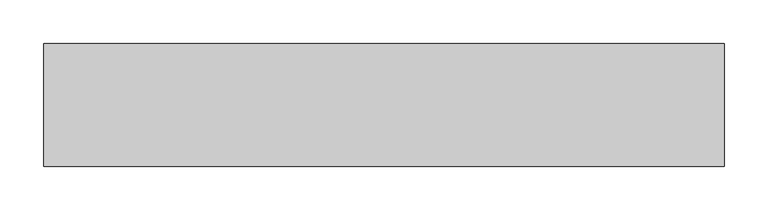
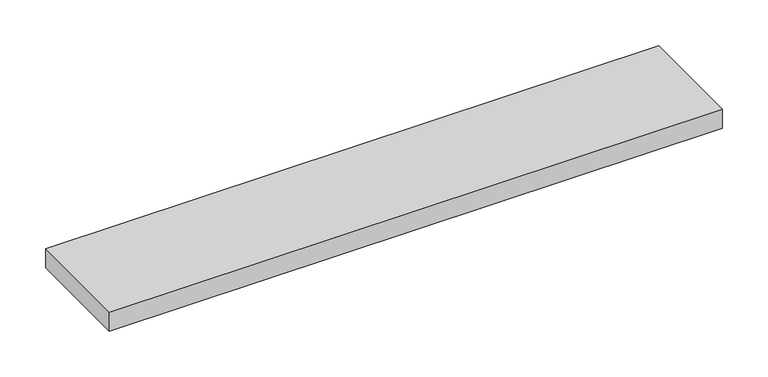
"""IFC4 building model written with IfcOpenShell, lengths in millimetres: proxy geometry, CAMBRIDGE^TABLE 2_4884 Rect-BOTTOM STILE 1."""

from ifc_helpers import new_model, si_unit, frame, origin, place, context, project, spatial, polyline, outline, extrude, source, transform, mapped, element, save


def generic_models_7f821ee5(model_context):
    return source(origin(), model_context, "Body", "SweptSolid", [
        extrude(outline(polyline([(1454.15, -711.2), (679.45, -711.2), (679.45, -571.5), (1454.15, -571.5), (1454.15, -711.2)])), frame((0.0, 0.0, -812.8), z_axis=(0.0, 0.0, 1.0), x_axis=(1.0, 0.0, 0.0)), (0.0, 0.0, 1.0), 25.4),
    ])


if __name__ == "__main__":
    model = new_model("IFC4")
    model_context = context("Model", 3, world=origin())
    ifc_project = project(units=[si_unit("LENGTHUNIT", "METRE", prefix="MILLI")], contexts=[model_context])
    site = spatial("IfcSite", under=ifc_project)
    building = spatial("IfcBuilding", under=site)
    placement = place(None, origin())
    generic_models_shape = generic_models_7f821ee5(model_context)
    element("IfcBuildingElementProxy", 1, Name="CAMBRIDGE^TABLE 2_4884 Rect-BOTTOM STILE 1", ObjectType="CAMBRIDGE^TABLE 2_4884 Rect-BOTTOM STILE 1", at=placement, inside=building, context=model_context, shape_type="MappedRepresentation", body=[
        mapped(generic_models_shape, transform((0.0, 0.0, 0.0), x_axis=(1.0, 0.0, 0.0), y_axis=(0.0, 1.0, 0.0), z_axis=(0.0, 0.0, 1.0))),
    ])
    save(model, "model.ifc")
